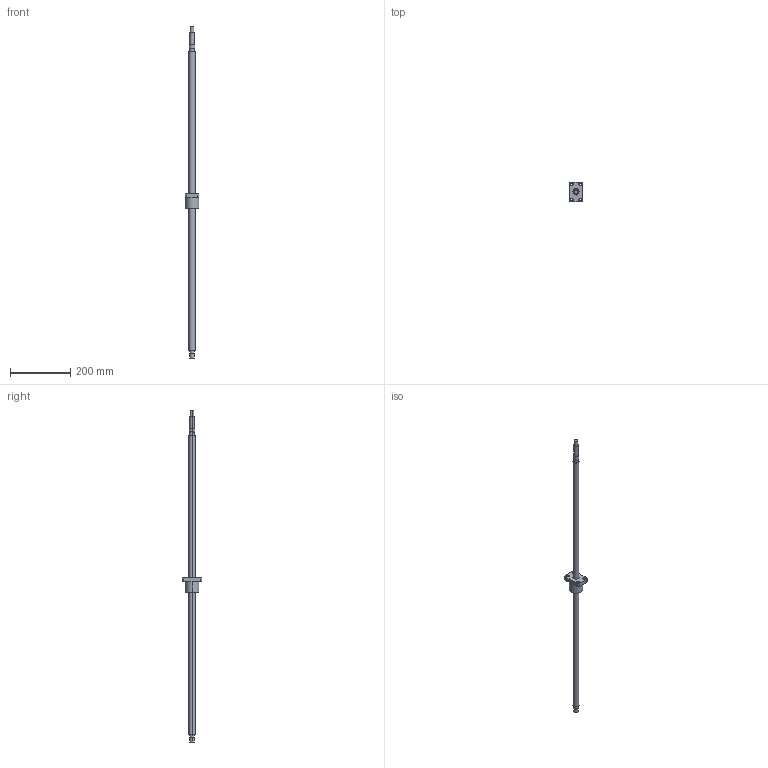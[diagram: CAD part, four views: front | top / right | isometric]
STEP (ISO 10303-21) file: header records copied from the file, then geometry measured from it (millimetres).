
FILE_DESCRIPTION((''),'2;1');
FILE_NAME('R20-10K3-FSC-989-1099','2008-04-03T',('wcwu'),(''),'PRO/ENGINEER BY PARAMETRIC TECHNOLOGY CORPORATION, 2005070','PRO/ENGINEER BY PARAMETRIC TECHNOLOGY CORPORATION, 2005070','');
FILE_SCHEMA(('CONFIG_CONTROL_DESIGN'));
Length unit declared in the file: millimetre
Products named in the file (1): R20-10K3-FSC-989-1099
Bounding box: 46 x 66 x 1099 mm (x, y, z)
Volume: 409559.1 mm3; surface area: 79539.7 mm2
Topology: 1 solids, 1 shells, 65 faces, 146 edges, 96 vertices
Faces by surface type: cylinder 40, plane 25
Entity records: 1906 total; most frequent: DIRECTION 360, CARTESIAN_POINT 307, ORIENTED_EDGE 292, AXIS2_PLACEMENT_3D 149, EDGE_CURVE 146, VERTEX_POINT 96, EDGE_LOOP 86, CIRCLE 84
